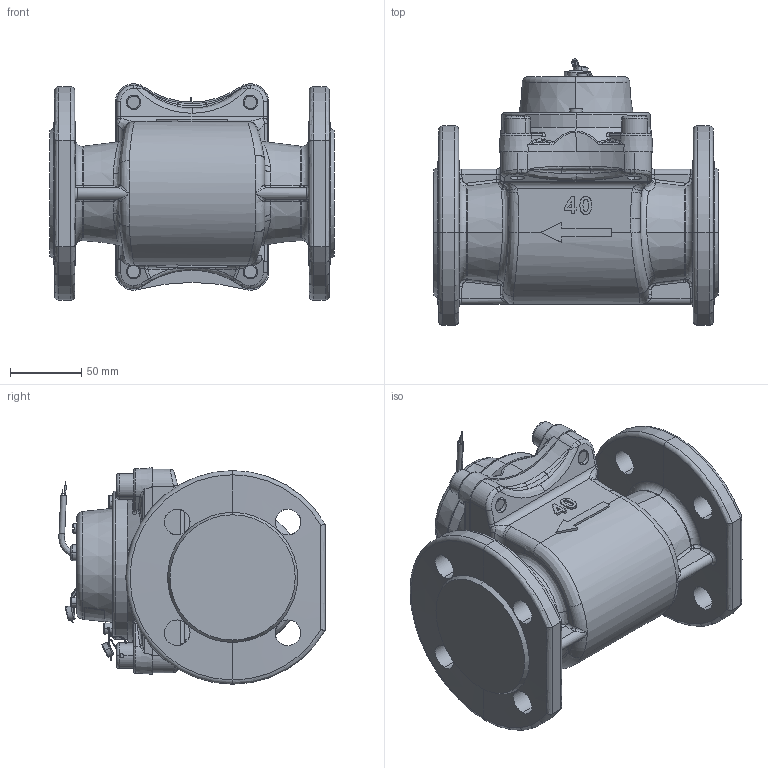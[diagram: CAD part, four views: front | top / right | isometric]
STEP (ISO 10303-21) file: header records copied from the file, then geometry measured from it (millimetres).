
FILE_DESCRIPTION (( 'STEP AP214' ), '1' );
FILE_NAME ('MWN130-40-NC.STEP', '2025-08-01T08:40:44', ( '' ), ( '' ), 'SwSTEP 2.0', 'SolidWorks 2019', '' );
FILE_SCHEMA (( 'AUTOMOTIVE_DESIGN' ));
Length unit declared in the file: millimetre
Products named in the file (1): MWN130-40-NC
Bounding box: 200 x 187.03 x 151.97 mm (x, y, z)
Volume: 2141242.2 mm3; surface area: 236884.6 mm2
Topology: 23 solids, 32 shells, 1504 faces, 3800 edges, 2350 vertices
Faces by surface type: plane 529, cylinder 379, bspline 291, cone 162, torus 133, sphere 10
Entity records: 78999 total; most frequent: CARTESIAN_POINT 28231, ORIENTED_EDGE 7486, DIRECTION 6563, EDGE_CURVE 3743, AXIS2_PLACEMENT_3D 2494, VERTEX_POINT 2350, EDGE_LOOP 1633, VECTOR 1575
